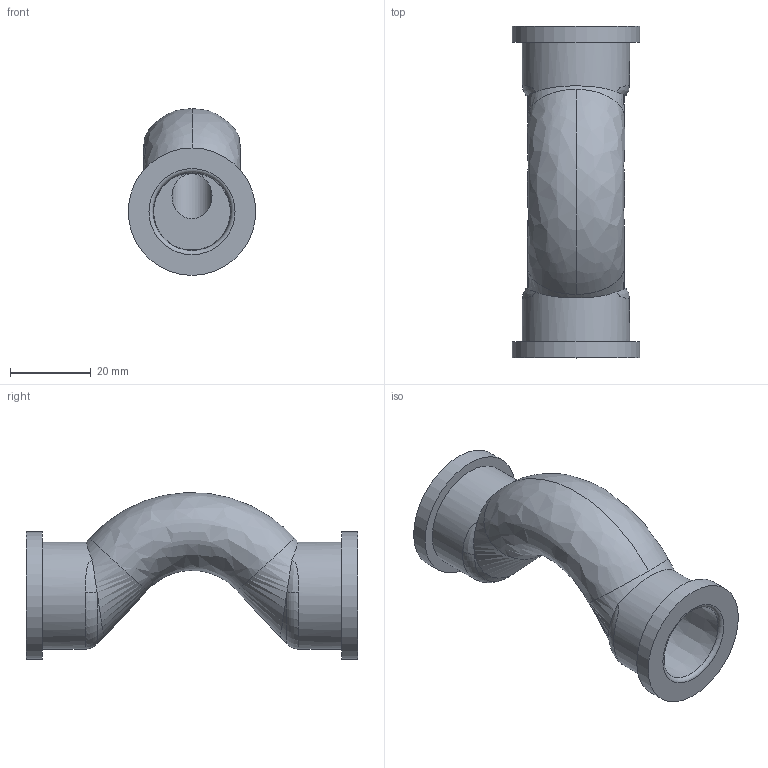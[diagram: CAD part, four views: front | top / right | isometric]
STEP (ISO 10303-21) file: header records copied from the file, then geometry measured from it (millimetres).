
FILE_DESCRIPTION(('STEP AP203'), '1');
FILE_NAME('ÂÐ.747111.022 - VTp.776.S.020', '', ('UNSPECIFIED'), ('UNSPECIFIED'), 'C3D Converter', 'C3D Toolkit', '');
FILE_SCHEMA(('CONFIG_CONTROL_DESIGN'));
Length unit declared in the file: millimetre
Products named in the file (1): ВР.747111.022
Bounding box: 31.5 x 82 x 41.23 mm (x, y, z)
Volume: 28782.8 mm3; surface area: 12359.3 mm2
Topology: 1 solids, 1 shells, 29 faces, 65 edges, 36 vertices
Faces by surface type: bspline 8, plane 6, cylinder 6, torus 5, cone 4
Full cylindrical faces by diameter (mm): 9.9 x2, 26.5 x2, 31.5 x2
Entity records: 1909 total; most frequent: CARTESIAN_POINT 1362, ORIENTED_EDGE 94, DIRECTION 92, EDGE_LOOP 47, EDGE_CURVE 47, AXIS2_PLACEMENT_3D 46, VERTEX_POINT 36, FACE_BOUND 31
